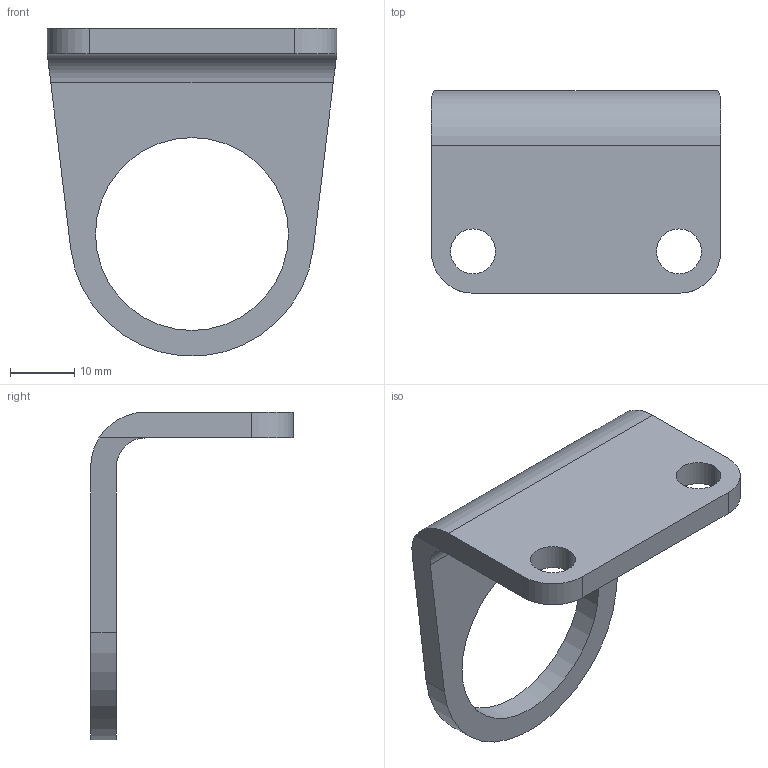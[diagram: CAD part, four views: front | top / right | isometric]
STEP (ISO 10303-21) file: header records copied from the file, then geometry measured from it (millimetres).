
FILE_DESCRIPTION((''),'2;1');
FILE_NAME('R412027801','2024-07-11T17:55:14',('THD3HC'),(''),'CREO PARAMETRIC BY PTC INC, 2023092','CREO PARAMETRIC BY PTC INC, 2023092','');
FILE_SCHEMA(('CONFIG_CONTROL_DESIGN','SHAPE_APPEARANCE_LAYERS_GROUPS'));
Length unit declared in the file: millimetre
Products named in the file (1): R412027801
Bounding box: 45 x 31.5 x 50.93 mm (x, y, z)
Volume: 8891.8 mm3; surface area: 5850.5 mm2
Topology: 1 solids, 1 shells, 20 faces, 52 edges, 34 vertices
Faces by surface type: cylinder 11, plane 9
Entity records: 873 total; most frequent: CARTESIAN_POINT 138, DIRECTION 108, ORIENTED_EDGE 104, PRESENTATION_STYLE_ASSIGNMENT 53, STYLED_ITEM 53, CURVE_STYLE 52, EDGE_CURVE 52, AXIS2_PLACEMENT_3D 40
